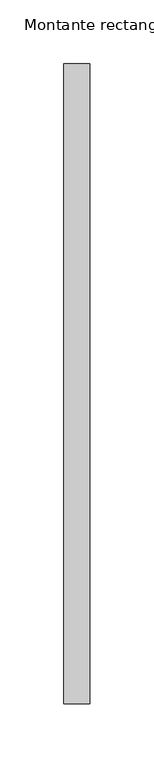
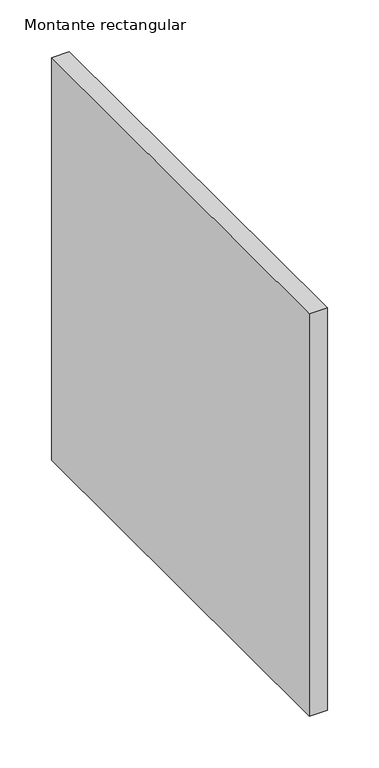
"""IFC4 building model written with IfcOpenShell, lengths in millimetres: member geometry, Montante rectangular : CIRCLES."""

from ifc_helpers import new_model, si_unit, frame, origin, place, context, project, spatial, polyline, outline, extrude, source, transform, mapped, element, save


def montante_rectangular_43f281ba(model_context):
    return source(origin(), model_context, "Body", "SweptSolid", [
        extrude(outline(polyline([(-20.0, 250.0), (0.0, 250.0), (0.0, -250.0), (-20.0, -250.0), (-20.0, 250.0)])), frame((0.0, 0.0, -476.0), z_axis=(0.0, 0.0, 1.0), x_axis=(1.0, 0.0, 0.0)), (0.0, 0.0, 1.0), 476.0),
    ])


if __name__ == "__main__":
    model = new_model("IFC4")
    model_context = context("Model", 3, world=origin())
    ifc_project = project(units=[si_unit("LENGTHUNIT", "METRE", prefix="MILLI")], contexts=[model_context])
    site = spatial("IfcSite", under=ifc_project)
    building = spatial("IfcBuilding", under=site)
    placement = place(None, origin())
    montante_rectangular_shape = montante_rectangular_43f281ba(model_context)
    element("IfcMember", 1, ObjectType="Montante rectangular : CIRCLES", at=placement, inside=building, context=model_context, shape_type="MappedRepresentation", body=[
        mapped(montante_rectangular_shape, transform((0.0, 0.0, 0.0), x_axis=(1.0, 0.0, 0.0), y_axis=(0.0, 1.0, 0.0), z_axis=(0.0, 0.0, 1.0))),
    ])
    save(model, "model.ifc")
